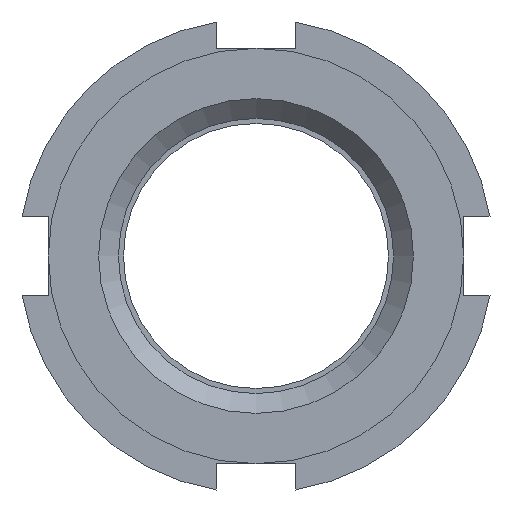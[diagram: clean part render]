
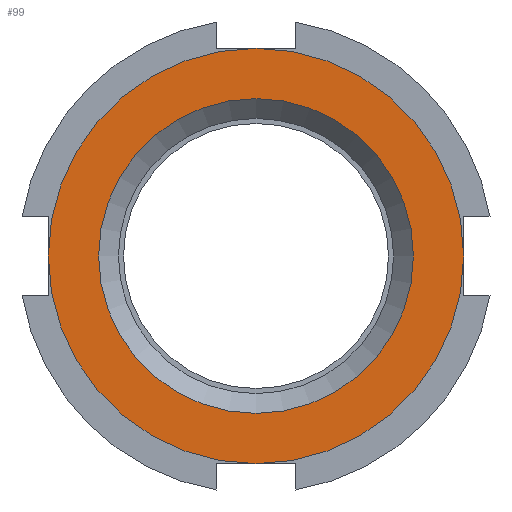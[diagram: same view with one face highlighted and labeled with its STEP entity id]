
A CAD part, left-side view. The second image highlights one B-rep face of the part: STEP entity #99.
In plain terms, the highlighted planar face has unit normal (-1, 0, 0).
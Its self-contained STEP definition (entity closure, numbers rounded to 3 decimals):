
#99 = ADVANCED_FACE( '', ( #167, #168 ), #169, .F. );
#167 = FACE_OUTER_BOUND( '', #245, .T. );
#168 = FACE_BOUND( '', #246, .T. );
#169 = PLANE( '', #247 );
#245 = EDGE_LOOP( '', ( #438 ) );
#246 = EDGE_LOOP( '', ( #439 ) );
#247 = AXIS2_PLACEMENT_3D( '', #440, #441, #442 );
#438 = ORIENTED_EDGE( '', *, *, #569, .F. );
#439 = ORIENTED_EDGE( '', *, *, #549, .T. );
#440 = CARTESIAN_POINT( '', ( 0., 0., 0. ) );
#441 = DIRECTION( '', ( 1., 0., 0. ) );
#442 = DIRECTION( '', ( 0., 0., -1. ) );
#549 = EDGE_CURVE( '', #654, #654, #655, .T. );
#569 = EDGE_CURVE( '', #682, #682, #683, .T. );
#654 = VERTEX_POINT( '', #839 );
#655 = CIRCLE( '', #840, 7.959 );
#682 = VERTEX_POINT( '', #875 );
#683 = CIRCLE( '', #876, 10.5 );
#839 = CARTESIAN_POINT( '', ( 0., 0., -7.959 ) );
#840 = AXIS2_PLACEMENT_3D( '', #964, #965, #966 );
#875 = CARTESIAN_POINT( '', ( 0., 0., -10.5 ) );
#876 = AXIS2_PLACEMENT_3D( '', #1011, #1012, #1013 );
#964 = CARTESIAN_POINT( '', ( 0., 0., 0. ) );
#965 = DIRECTION( '', ( 1., 0., 0. ) );
#966 = DIRECTION( '', ( 0., 0., -1. ) );
#1011 = CARTESIAN_POINT( '', ( 0., 0., 0. ) );
#1012 = DIRECTION( '', ( 1., 0., 0. ) );
#1013 = DIRECTION( '', ( 0., 0., -1. ) );
